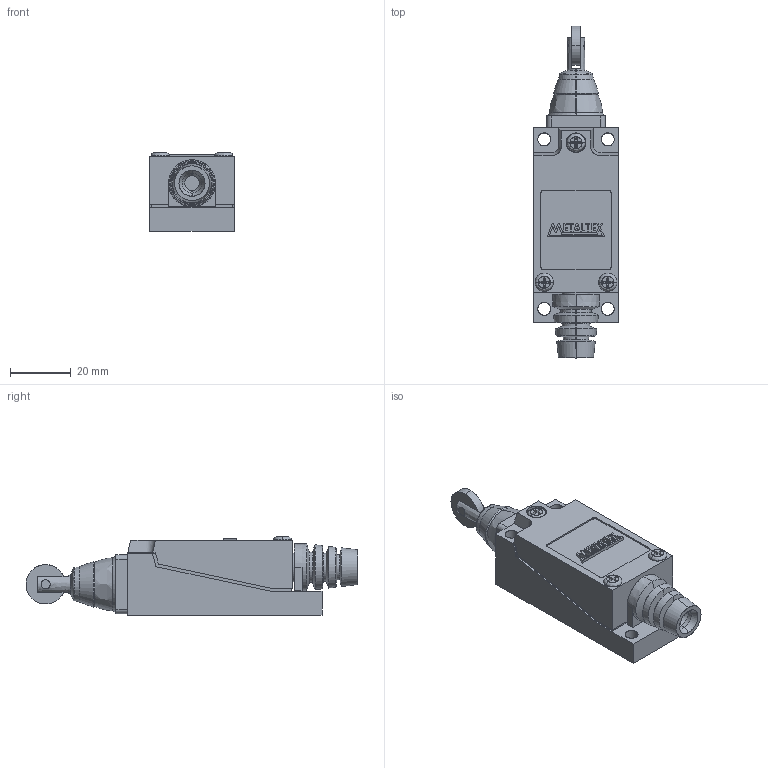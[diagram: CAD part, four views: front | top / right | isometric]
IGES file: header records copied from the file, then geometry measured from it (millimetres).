
Start section: SolidWorks IGES file using analytic representation for surfaces
Global section: file name: D:\X - Arquivos\PROEX\Empresas\P11 - METALTEX\01 - Produtos\IGES\4ª remessa\6ª etapa\FM8122.IGS; native system: SolidWorks 2012; preprocessor: SolidWorks 2012; author: Usuario; date: 180620.132506; units: millimetre
Bounding box: 28 x 109.75 x 25.9 mm (x, y, z)
Surface area: 12238.4 mm2 (no closed solid volume)
Topology: 0 solids, 0 shells, 295 faces, 2798 edges, 2798 vertices
Faces by surface type: bspline 209, revolution 86
